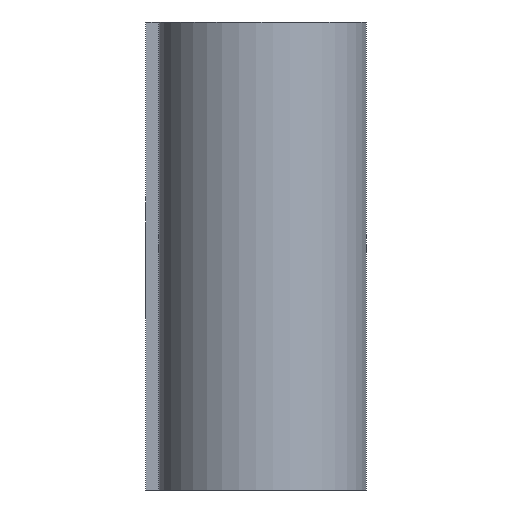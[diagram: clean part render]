
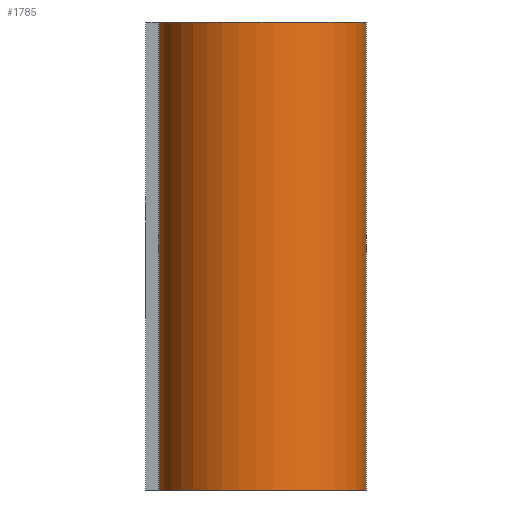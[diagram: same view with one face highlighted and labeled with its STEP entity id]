
A CAD part, left-side view. The second image highlights one B-rep face of the part: STEP entity #1785.
In plain terms, the highlighted cylindrical face has radius 8 mm (diameter 16 mm), a partial arc.
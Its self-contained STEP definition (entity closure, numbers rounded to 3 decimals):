
#69 = CARTESIAN_POINT ( 'NONE',  ( 4.124, -6.855, -18. ) ) ;
#154 = VECTOR ( 'NONE', #1720, 1000. ) ;
#226 = CARTESIAN_POINT ( 'NONE',  ( 0., 8., 18. ) ) ;
#280 = AXIS2_PLACEMENT_3D ( 'NONE', #1505, #1157, #531 ) ;
#511 = CARTESIAN_POINT ( 'NONE',  ( 0., 0., 18. ) ) ;
#519 = CARTESIAN_POINT ( 'NONE',  ( 0., 8., -18. ) ) ;
#531 = DIRECTION ( 'NONE',  ( 1., 0., 0. ) ) ;
#560 = LINE ( 'NONE', #519, #1801 ) ;
#656 = CARTESIAN_POINT ( 'NONE',  ( 0., 0., -18. ) ) ;
#686 = CYLINDRICAL_SURFACE ( 'NONE', #888, 8. ) ;
#710 = LINE ( 'NONE', #69, #154 ) ;
#805 = EDGE_CURVE ( 'NONE', #989, #1892, #1956, .T. ) ;
#806 = DIRECTION ( 'NONE',  ( 1., 0., 0. ) ) ;
#835 = ORIENTED_EDGE ( 'NONE', *, *, #1648, .T. ) ;
#848 = EDGE_LOOP ( 'NONE', ( #1756, #1771, #1579, #835 ) ) ;
#888 = AXIS2_PLACEMENT_3D ( 'NONE', #656, #2086, #806 ) ;
#918 = VERTEX_POINT ( 'NONE', #1185 ) ;
#989 = VERTEX_POINT ( 'NONE', #1385 ) ;
#1001 = DIRECTION ( 'NONE',  ( 0., 0., 1. ) ) ;
#1143 = CARTESIAN_POINT ( 'NONE',  ( 4.124, -6.855, -18. ) ) ;
#1157 = DIRECTION ( 'NONE',  ( 0., 0., 1. ) ) ;
#1185 = CARTESIAN_POINT ( 'NONE',  ( 4.124, -6.855, 18. ) ) ;
#1313 = DIRECTION ( 'NONE',  ( 1., 0., 0. ) ) ;
#1385 = CARTESIAN_POINT ( 'NONE',  ( 0., 8., -18. ) ) ;
#1432 = AXIS2_PLACEMENT_3D ( 'NONE', #511, #1001, #1313 ) ;
#1505 = CARTESIAN_POINT ( 'NONE',  ( 0., 0., -18. ) ) ;
#1579 = ORIENTED_EDGE ( 'NONE', *, *, #805, .T. ) ;
#1648 = EDGE_CURVE ( 'NONE', #1892, #918, #710, .T. ) ;
#1671 = CIRCLE ( 'NONE', #1432, 8. ) ;
#1720 = DIRECTION ( 'NONE',  ( 0., 0., 1. ) ) ;
#1756 = ORIENTED_EDGE ( 'NONE', *, *, #1910, .F. ) ;
#1771 = ORIENTED_EDGE ( 'NONE', *, *, #1893, .F. ) ;
#1785 = ADVANCED_FACE ( 'NONE', ( #1990 ), #686, .T. ) ;
#1801 = VECTOR ( 'NONE', #1949, 1000. ) ;
#1892 = VERTEX_POINT ( 'NONE', #1143 ) ;
#1893 = EDGE_CURVE ( 'NONE', #989, #2083, #560, .T. ) ;
#1910 = EDGE_CURVE ( 'NONE', #2083, #918, #1671, .T. ) ;
#1949 = DIRECTION ( 'NONE',  ( 0., 0., 1. ) ) ;
#1956 = CIRCLE ( 'NONE', #280, 8. ) ;
#1990 = FACE_OUTER_BOUND ( 'NONE', #848, .T. ) ;
#2083 = VERTEX_POINT ( 'NONE', #226 ) ;
#2086 = DIRECTION ( 'NONE',  ( 0., 0., 1. ) ) ;
